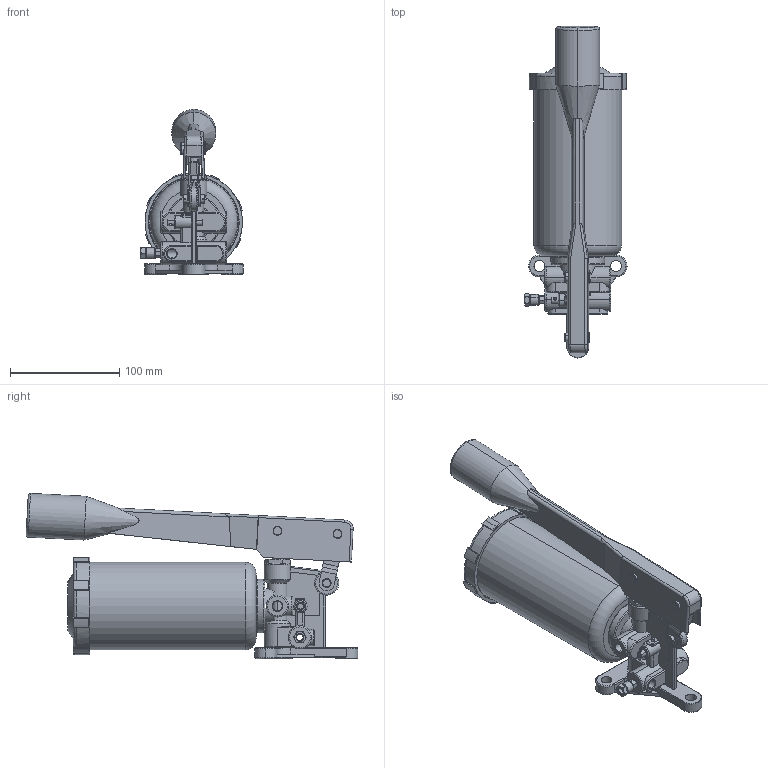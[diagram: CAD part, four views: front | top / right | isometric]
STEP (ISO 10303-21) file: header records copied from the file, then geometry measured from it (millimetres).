
FILE_DESCRIPTION (( 'STEP AP203' ), '1' );
FILE_NAME ('XEP20.STEP', '2020-04-14T03:34:00', ( '个人用户' ), ( '微软中国' ), 'SwSTEP 2.0', 'SolidWorks 2018', '' );
FILE_SCHEMA (( 'CONFIG_CONTROL_DESIGN' ));
Length unit declared in the file: millimetre
Products named in the file (1): XEP20
Bounding box: 93.24 x 303.07 x 150.94 mm (x, y, z)
Surface area: 139291 mm2 (no closed solid volume)
Topology: 0 solids, 24 shells, 553 faces, 1594 edges, 1039 vertices
Faces by surface type: plane 217, cylinder 203, cone 66, torus 58, bspline 9
Entity records: 20321 total; most frequent: CARTESIAN_POINT 5946, DIRECTION 3034, ORIENTED_EDGE 2874, EDGE_CURVE 1594, AXIS2_PLACEMENT_3D 1155, VERTEX_POINT 1039, VECTOR 724, LINE 724
